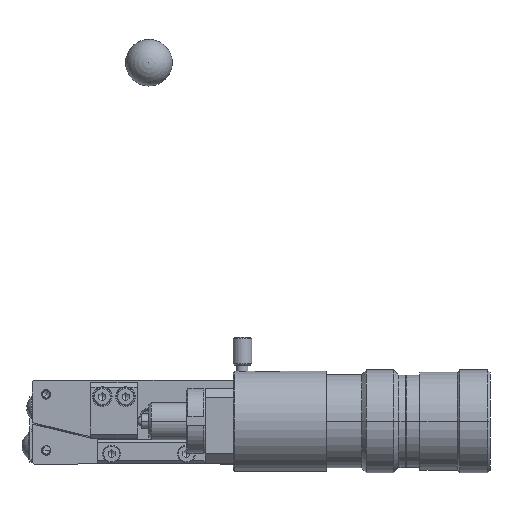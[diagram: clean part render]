
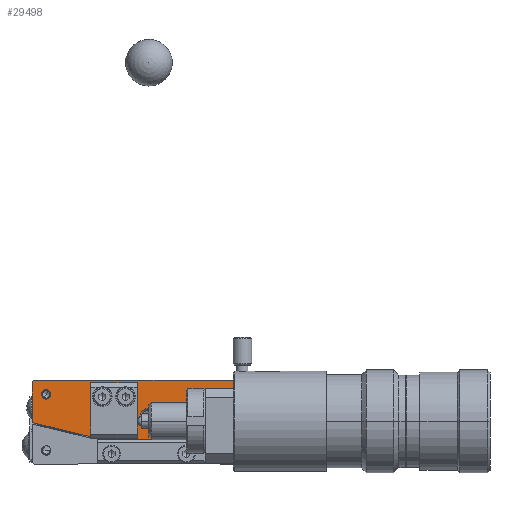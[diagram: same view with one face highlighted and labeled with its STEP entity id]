
A CAD part, front view. The second image highlights one B-rep face of the part: STEP entity #29498.
In plain terms, the highlighted planar face has unit normal (0, -1, 0).
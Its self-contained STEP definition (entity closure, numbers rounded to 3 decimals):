
#7683 = CARTESIAN_POINT ( 'NONE',  ( -25., -25., -9.045 ) ) ;
#7684 = DIRECTION ( 'NONE',  ( 1., 0., 0. ) ) ;
#7685 = DIRECTION ( 'NONE',  ( 0., -1., 0. ) ) ;
#7686 = CARTESIAN_POINT ( 'NONE',  ( 0., -25., 68. ) ) ;
#7687 = AXIS2_PLACEMENT_3D ( 'NONE', #7686, #7685, #7684 ) ;
#7688 = CIRCLE ( 'NONE', #7687, 81. ) ;
#7743 = DIRECTION ( 'NONE',  ( 0., 0., 1. ) ) ;
#7744 = VECTOR ( 'NONE', #7743, 1000. ) ;
#7745 = CARTESIAN_POINT ( 'NONE',  ( 25., -25., -9.045 ) ) ;
#7746 = LINE ( 'NONE', #7745, #7744 ) ;
#7747 = CARTESIAN_POINT ( 'NONE',  ( 25., -25., -9.045 ) ) ;
#7749 = DIRECTION ( 'NONE',  ( 0., 0., -1. ) ) ;
#7750 = VECTOR ( 'NONE', #7749, 1000. ) ;
#7751 = CARTESIAN_POINT ( 'NONE',  ( -25., -25., -0.3 ) ) ;
#7752 = LINE ( 'NONE', #7751, #7750 ) ;
#7753 = CARTESIAN_POINT ( 'NONE',  ( -25., -25., -0.3 ) ) ;
#7760 = DIRECTION ( 'NONE',  ( -0.707, 0., -0.707 ) ) ;
#7761 = VECTOR ( 'NONE', #7760, 1000. ) ;
#7762 = CARTESIAN_POINT ( 'NONE',  ( -24.7, -25., 0. ) ) ;
#7763 = LINE ( 'NONE', #7762, #7761 ) ;
#7764 = CARTESIAN_POINT ( 'NONE',  ( -24.7, -25., 0. ) ) ;
#7765 = DIRECTION ( 'NONE',  ( -1., 0., 0. ) ) ;
#7766 = VECTOR ( 'NONE', #7765, 1000. ) ;
#7767 = CARTESIAN_POINT ( 'NONE',  ( 24.7, -25., 0. ) ) ;
#7768 = LINE ( 'NONE', #7767, #7766 ) ;
#7773 = CARTESIAN_POINT ( 'NONE',  ( 24.7, -25., 0. ) ) ;
#7793 = DIRECTION ( 'NONE',  ( 0., 0., -1. ) ) ;
#7794 = DIRECTION ( 'NONE',  ( 0., -1., 0. ) ) ;
#7795 = CARTESIAN_POINT ( 'NONE',  ( 0., -25., -8. ) ) ;
#7796 = AXIS2_PLACEMENT_3D ( 'NONE', #7795, #7794, #7793 ) ;
#7797 = CIRCLE ( 'NONE', #7796, 2. ) ;
#7814 = DIRECTION ( 'NONE',  ( 1., 0., 0. ) ) ;
#7815 = DIRECTION ( 'NONE',  ( 0., -1., 0. ) ) ;
#7816 = CARTESIAN_POINT ( 'NONE',  ( 0., -25., 68. ) ) ;
#7817 = AXIS2_PLACEMENT_3D ( 'NONE', #7816, #7815, #7814 ) ;
#7818 = PLANE ( 'NONE',  #7817 ) ;
#7819 = FACE_BOUND ( 'NONE', #29531, .T. ) ;
#7820 = FACE_BOUND ( 'NONE', #29523, .T. ) ;
#7821 = FACE_BOUND ( 'NONE', #29515, .T. ) ;
#7822 = FACE_BOUND ( 'NONE', #29479, .T. ) ;
#7823 = FACE_OUTER_BOUND ( 'NONE', #29499, .T. ) ;
#7879 = CARTESIAN_POINT ( 'NONE',  ( -12.5, -25., -6.5 ) ) ;
#7880 = DIRECTION ( 'NONE',  ( 1., 0., 0. ) ) ;
#7881 = VECTOR ( 'NONE', #7880, 1000. ) ;
#7882 = CARTESIAN_POINT ( 'NONE',  ( -12.5, -25., -6.5 ) ) ;
#7883 = LINE ( 'NONE', #7882, #7881 ) ;
#7889 = DIRECTION ( 'NONE',  ( -0.555, 0., -0.832 ) ) ;
#7890 = DIRECTION ( 'NONE',  ( 0., -1., 0. ) ) ;
#7891 = AXIS2_PLACEMENT_3D ( 'NONE', #7897, #7890, #7889 ) ;
#7892 = CIRCLE ( 'NONE', #7891, 1. ) ;
#7897 = CARTESIAN_POINT ( 'NONE',  ( -22., -25., -3. ) ) ;
#7900 = DIRECTION ( 'NONE',  ( 0.555, 0., -0.832 ) ) ;
#7901 = DIRECTION ( 'NONE',  ( 0., -1., 0. ) ) ;
#7902 = CARTESIAN_POINT ( 'NONE',  ( 22., -25., -3. ) ) ;
#7903 = AXIS2_PLACEMENT_3D ( 'NONE', #7902, #7901, #7900 ) ;
#7904 = CIRCLE ( 'NONE', #7903, 1. ) ;
#7913 = CARTESIAN_POINT ( 'NONE',  ( 25., -25., -0.3 ) ) ;
#7918 = CARTESIAN_POINT ( 'NONE',  ( -2.5, -25., -6.5 ) ) ;
#7972 = DIRECTION ( 'NONE',  ( -0.707, 0., 0.707 ) ) ;
#7973 = VECTOR ( 'NONE', #7972, 1000. ) ;
#7974 = CARTESIAN_POINT ( 'NONE',  ( 25., -25., -0.3 ) ) ;
#7975 = LINE ( 'NONE', #7974, #7973 ) ;
#8011 = LINE ( 'NONE', #8056, #8055 ) ;
#8020 = CARTESIAN_POINT ( 'NONE',  ( -2.5, -25., -0.5 ) ) ;
#8021 = DIRECTION ( 'NONE',  ( 1., 0., 0. ) ) ;
#8022 = VECTOR ( 'NONE', #8021, 1000. ) ;
#8023 = CARTESIAN_POINT ( 'NONE',  ( -12.5, -25., -0.5 ) ) ;
#8024 = LINE ( 'NONE', #8023, #8022 ) ;
#8025 = CARTESIAN_POINT ( 'NONE',  ( -12.5, -25., -0.5 ) ) ;
#8026 = DIRECTION ( 'NONE',  ( 0., 0., 1. ) ) ;
#8027 = VECTOR ( 'NONE', #8026, 1000. ) ;
#8028 = CARTESIAN_POINT ( 'NONE',  ( -12.5, -25., -6.5 ) ) ;
#8029 = LINE ( 'NONE', #8028, #8027 ) ;
#8054 = DIRECTION ( 'NONE',  ( 0., 0., 1. ) ) ;
#8055 = VECTOR ( 'NONE', #8054, 1000. ) ;
#8056 = CARTESIAN_POINT ( 'NONE',  ( -2.5, -25., -6.5 ) ) ;
#11661 = CARTESIAN_POINT ( 'NONE',  ( -22.555, -25., -3.832 ) ) ;
#11662 = DIRECTION ( 'NONE',  ( -0.555, 0., -0.832 ) ) ;
#11663 = DIRECTION ( 'NONE',  ( 0., -1., 0. ) ) ;
#11664 = CARTESIAN_POINT ( 'NONE',  ( -22., -25., -3. ) ) ;
#11665 = AXIS2_PLACEMENT_3D ( 'NONE', #11664, #11663, #11662 ) ;
#11666 = CIRCLE ( 'NONE', #11665, 1. ) ;
#11672 = CARTESIAN_POINT ( 'NONE',  ( -21.445, -25., -2.168 ) ) ;
#11755 = CARTESIAN_POINT ( 'NONE',  ( 21.445, -25., -2.168 ) ) ;
#11872 = CARTESIAN_POINT ( 'NONE',  ( 22.555, -25., -3.832 ) ) ;
#11874 = DIRECTION ( 'NONE',  ( 0.555, 0., -0.832 ) ) ;
#11876 = DIRECTION ( 'NONE',  ( 0., -1., 0. ) ) ;
#11877 = CARTESIAN_POINT ( 'NONE',  ( 22., -25., -3. ) ) ;
#11878 = AXIS2_PLACEMENT_3D ( 'NONE', #11877, #11876, #11874 ) ;
#11880 = CIRCLE ( 'NONE', #11878, 1. ) ;
#11990 = DIRECTION ( 'NONE',  ( 0., 0., -1. ) ) ;
#11992 = DIRECTION ( 'NONE',  ( 0., -1., 0. ) ) ;
#11994 = CARTESIAN_POINT ( 'NONE',  ( 0., -25., -8. ) ) ;
#11995 = AXIS2_PLACEMENT_3D ( 'NONE', #11994, #11992, #11990 ) ;
#11997 = CIRCLE ( 'NONE', #11995, 2. ) ;
#12028 = CARTESIAN_POINT ( 'NONE',  ( 0., -25., -6. ) ) ;
#12175 = CARTESIAN_POINT ( 'NONE',  ( 0., -25., -10. ) ) ;
#29424 = ORIENTED_EDGE ( 'NONE', *, *, #29426, .T. ) ;
#29426 = EDGE_CURVE ( 'NONE', #29427, #29429, #7688, .T. ) ;
#29427 = VERTEX_POINT ( 'NONE', #7683 ) ;
#29429 = VERTEX_POINT ( 'NONE', #7747 ) ;
#29431 = ORIENTED_EDGE ( 'NONE', *, *, #29432, .T. ) ;
#29432 = EDGE_CURVE ( 'NONE', #29429, #29540, #7746, .T. ) ;
#29462 = VERTEX_POINT ( 'NONE', #7773 ) ;
#29464 = ORIENTED_EDGE ( 'NONE', *, *, #29466, .T. ) ;
#29466 = EDGE_CURVE ( 'NONE', #29462, #29467, #7768, .T. ) ;
#29467 = VERTEX_POINT ( 'NONE', #7764 ) ;
#29469 = ORIENTED_EDGE ( 'NONE', *, *, #29471, .T. ) ;
#29471 = EDGE_CURVE ( 'NONE', #29467, #29473, #7763, .T. ) ;
#29473 = VERTEX_POINT ( 'NONE', #7753 ) ;
#29475 = ORIENTED_EDGE ( 'NONE', *, *, #29477, .T. ) ;
#29477 = EDGE_CURVE ( 'NONE', #29473, #29427, #7752, .T. ) ;
#29479 = EDGE_LOOP ( 'NONE', ( #29481, #29514 ) ) ;
#29481 = ORIENTED_EDGE ( 'NONE', *, *, #29482, .F. ) ;
#29482 = EDGE_CURVE ( 'NONE', #31539, #31511, #7797, .T. ) ;
#29498 = ADVANCED_FACE ( 'NONE', ( #7823, #7822, #7821, #7820, #7819 ), #7818, .T. ) ;
#29499 = EDGE_LOOP ( 'NONE', ( #29424, #29431, #29543, #29464, #29469, #29475 ) ) ;
#29514 = ORIENTED_EDGE ( 'NONE', *, *, #31516, .F. ) ;
#29515 = EDGE_LOOP ( 'NONE', ( #29517, #29522 ) ) ;
#29517 = ORIENTED_EDGE ( 'NONE', *, *, #29519, .F. ) ;
#29519 = EDGE_CURVE ( 'NONE', #31485, #31479, #7904, .T. ) ;
#29522 = ORIENTED_EDGE ( 'NONE', *, *, #31483, .F. ) ;
#29523 = EDGE_LOOP ( 'NONE', ( #29525, #29530 ) ) ;
#29525 = ORIENTED_EDGE ( 'NONE', *, *, #29527, .F. ) ;
#29527 = EDGE_CURVE ( 'NONE', #31428, #31422, #7892, .T. ) ;
#29530 = ORIENTED_EDGE ( 'NONE', *, *, #31426, .F. ) ;
#29531 = EDGE_LOOP ( 'NONE', ( #29534, #29571, #29577, #29583 ) ) ;
#29534 = ORIENTED_EDGE ( 'NONE', *, *, #29535, .F. ) ;
#29535 = EDGE_CURVE ( 'NONE', #29537, #29539, #7883, .T. ) ;
#29537 = VERTEX_POINT ( 'NONE', #7879 ) ;
#29539 = VERTEX_POINT ( 'NONE', #7918 ) ;
#29540 = VERTEX_POINT ( 'NONE', #7913 ) ;
#29543 = ORIENTED_EDGE ( 'NONE', *, *, #29544, .T. ) ;
#29544 = EDGE_CURVE ( 'NONE', #29540, #29462, #7975, .T. ) ;
#29571 = ORIENTED_EDGE ( 'NONE', *, *, #29574, .T. ) ;
#29574 = EDGE_CURVE ( 'NONE', #29537, #29575, #8029, .T. ) ;
#29575 = VERTEX_POINT ( 'NONE', #8025 ) ;
#29577 = ORIENTED_EDGE ( 'NONE', *, *, #29579, .T. ) ;
#29579 = EDGE_CURVE ( 'NONE', #29575, #29581, #8024, .T. ) ;
#29581 = VERTEX_POINT ( 'NONE', #8020 ) ;
#29583 = ORIENTED_EDGE ( 'NONE', *, *, #29585, .F. ) ;
#29585 = EDGE_CURVE ( 'NONE', #29539, #29581, #8011, .T. ) ;
#31422 = VERTEX_POINT ( 'NONE', #11672 ) ;
#31426 = EDGE_CURVE ( 'NONE', #31422, #31428, #11666, .T. ) ;
#31428 = VERTEX_POINT ( 'NONE', #11661 ) ;
#31479 = VERTEX_POINT ( 'NONE', #11755 ) ;
#31483 = EDGE_CURVE ( 'NONE', #31479, #31485, #11880, .T. ) ;
#31485 = VERTEX_POINT ( 'NONE', #11872 ) ;
#31511 = VERTEX_POINT ( 'NONE', #12028 ) ;
#31516 = EDGE_CURVE ( 'NONE', #31511, #31539, #11997, .T. ) ;
#31539 = VERTEX_POINT ( 'NONE', #12175 ) ;
